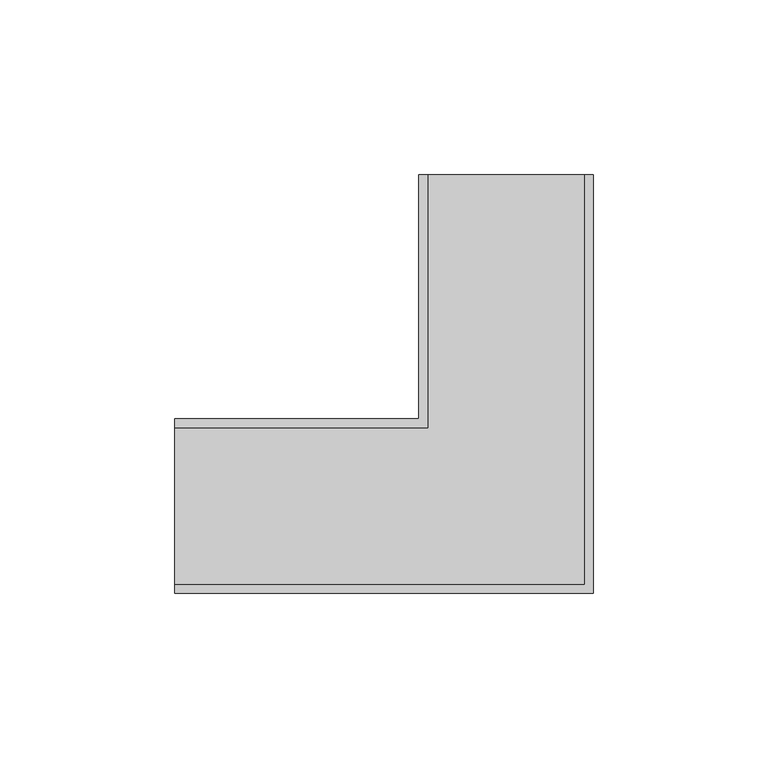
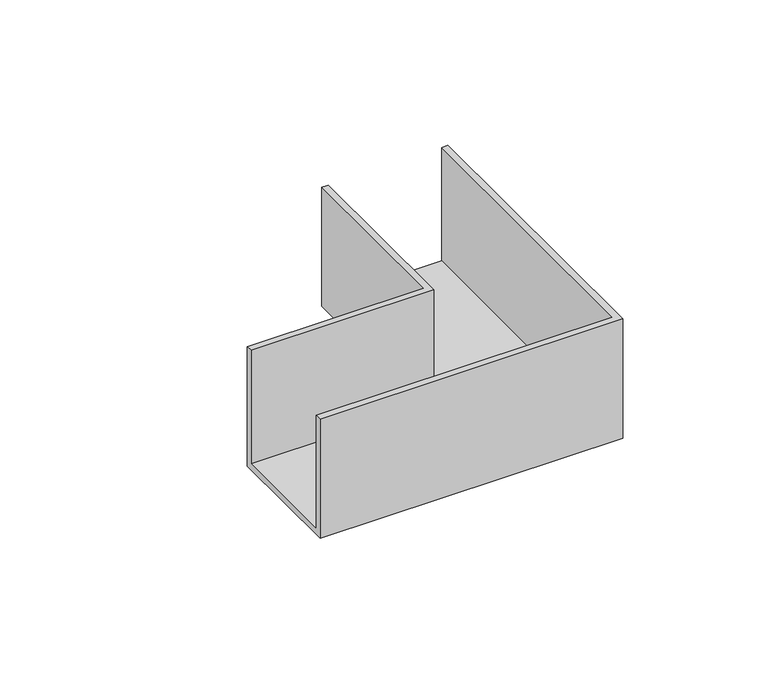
"""IFC4 building model written with IfcOpenShell, lengths in millimetres: cable carrier fitting geometry, CPER 50x50_Horizontal_Bend-Basortray : Basortray CPER50-GC."""

import ifcopenshell
import ifcopenshell.guid

model = None  # the IFC model being written
_history = None  # IfcOwnerHistory: only IFC2X3 demands one
_inside = {}  # id of a spatial element -> (the spatial element, [elements in it])
_under = {}  # id of a project, library or spatial element -> (it, [spatial elements below it])
_declared = {}  # id of a project -> (the project, [libraries it declares])
_typed = {}  # id of a type object -> (the type object, [elements of that type])
_made_of = {}  # id of a material, layer set ... -> (it, [elements and type objects made of it])


def new_model(schema):
    """Start an empty IFC model of exactly this schema.

    Asked for "IFC4X3", IfcOpenShell would pick the latest addendum, in which some entities
    have other attributes; the version numbers below select the first issue.
    IFC2X3 requires an IfcOwnerHistory on every rooted entity: one is made here for all.
    """
    global model, _history
    if schema == "IFC4X3":
        model = ifcopenshell.file(schema_version=(4, 3, 0, 0))
    else:
        model = ifcopenshell.file(schema=schema)
    _inside.clear()
    _under.clear()
    _declared.clear()
    _typed.clear()
    _made_of.clear()
    _history = None
    if model.schema == "IFC2X3":
        org = make("IfcOrganization", Name="unknown")
        user = make(
            "IfcPersonAndOrganization",
            ThePerson=make("IfcPerson", FamilyName="unknown"),
            TheOrganization=org,
        )
        app = make(
            "IfcApplication",
            ApplicationDeveloper=org,
            Version="unknown",
            ApplicationFullName="unknown",
            ApplicationIdentifier="unknown",
        )
        _history = make(
            "IfcOwnerHistory",
            OwningUser=user,
            OwningApplication=app,
            ChangeAction="ADDED",
            CreationDate=0,
        )
    return model


def make(cls, **values):
    """One entity of the class cls with the attributes given. An attribute that is None is left unset."""
    return model.create_entity(
        cls, **{name: value for name, value in values.items() if value is not None}
    )


def rooted(cls, **values):
    """An entity with a GlobalId (a new one), such as an element, a storey or a relation."""
    return make(cls, GlobalId=ifcopenshell.guid.new(), OwnerHistory=_history, **values)


def si_unit(unit_type, name, prefix=None):
    """IfcSIUnit, for example si_unit("LENGTHUNIT", "METRE", prefix="MILLI")."""
    return make("IfcSIUnit", UnitType=unit_type, Prefix=prefix, Name=name)


def assignment(units):
    """IfcUnitAssignment: the units of a project."""
    return None if units is None else make("IfcUnitAssignment", Units=units)


def point(xyz):
    """IfcCartesianPoint."""
    return None if xyz is None else make("IfcCartesianPoint", Coordinates=xyz)


def direction(xyz):
    """IfcDirection."""
    return None if xyz is None else make("IfcDirection", DirectionRatios=xyz)


def frame(location, z_axis=None, x_axis=None):
    """IfcAxis2Placement3D, a coordinate frame: its origin and axes. An axis left out is left unset."""
    return make(
        "IfcAxis2Placement3D",
        Location=point(location),
        Axis=direction(z_axis),
        RefDirection=direction(x_axis),
    )


def origin():
    """The frame at (0, 0, 0) with its axes left unset."""
    return frame((0.0, 0.0, 0.0))


def place(relative_to, where):
    """IfcLocalPlacement: puts the frame where relative to a parent placement (None: the world)."""
    return make(
        "IfcLocalPlacement", PlacementRelTo=relative_to, RelativePlacement=where
    )


def context(
    kind, dimensions, precision=None, world=None, true_north=None, identifier=None
):
    """IfcGeometricRepresentationContext, for example the 3D "Model" context."""
    return make(
        "IfcGeometricRepresentationContext",
        ContextIdentifier=identifier,
        ContextType=kind,
        CoordinateSpaceDimension=dimensions,
        Precision=precision,
        WorldCoordinateSystem=world,
        TrueNorth=true_north,
    )


def project(units=None, contexts=None):
    """IfcProject with its units and contexts."""
    return rooted(
        "IfcProject",
        Name="project",
        RepresentationContexts=contexts,
        UnitsInContext=assignment(units),
    )


def spatial(cls, under=None, at=None, **own):
    """A site, building, storey or space (cls), placed at a placement, below another one or the project."""
    s = rooted(cls, ObjectPlacement=at, **own)
    if under is not None:
        _under.setdefault(under.id(), (under, []))[1].append(s)
    return s


def faces_of(points, faces, orient=None, outer=None):
    """IfcFace entities. A face is a list of loops; a loop is a list of indices into points, from 0.

    orient and outer hold one flag for each loop. By default every Orientation is true, the
    first loop of a face is its IfcFaceOuterBound and the others are IfcFaceBound.
    """
    made = []
    for i, loops in enumerate(faces):
        bounds = []
        for j, loop in enumerate(loops):
            is_outer = j == 0 if outer is None else outer[i][j]
            bounds.append(
                make(
                    "IfcFaceOuterBound" if is_outer else "IfcFaceBound",
                    Bound=make("IfcPolyLoop", Polygon=[points[k] for k in loop]),
                    Orientation=True if orient is None else orient[i][j],
                )
            )
        made.append(make("IfcFace", Bounds=bounds))
    return made


def faceted_brep(points, faces, orient=None, outer=None, voids=None):
    """IfcFacetedBrep: a solid bounded by flat faces; with voids (closed shells), ...WithVoids."""
    shared = [point(p) for p in points]
    hull = make("IfcClosedShell", CfsFaces=faces_of(shared, faces, orient, outer))
    if voids is None:
        return make("IfcFacetedBrep", Outer=hull)
    return make(
        "IfcFacetedBrepWithVoids",
        Outer=hull,
        Voids=[
            make(cls, CfsFaces=faces_of(shared, fs, o, b)) for cls, fs, o, b in voids
        ],
    )


def shape(context_of_items, identifier, shape_type, items):
    """IfcShapeRepresentation: the items that make up one representation, for example the "Body"."""
    return make(
        "IfcShapeRepresentation",
        ContextOfItems=context_of_items,
        RepresentationIdentifier=identifier,
        RepresentationType=shape_type,
        Items=items,
    )


def source(mapping_origin, context_of_items, identifier, shape_type, items):
    """IfcRepresentationMap: a shape defined once, which mapped items show again and again."""
    return make(
        "IfcRepresentationMap",
        MappingOrigin=mapping_origin,
        MappedRepresentation=shape(context_of_items, identifier, shape_type, items),
    )


def transform(
    local_origin,
    x_axis=None,
    y_axis=None,
    z_axis=None,
    scale=None,
    scale2=None,
    scale3=None,
    uniform=True,
):
    """IfcCartesianTransformationOperator3D, or its non-uniform kind. x_axis, y_axis, z_axis: its Axis1, 2, 3."""
    if uniform:
        return make(
            "IfcCartesianTransformationOperator3D",
            Axis1=direction(x_axis),
            Axis2=direction(y_axis),
            LocalOrigin=point(local_origin),
            Scale=scale,
            Axis3=direction(z_axis),
        )
    return make(
        "IfcCartesianTransformationOperator3DnonUniform",
        Axis1=direction(x_axis),
        Axis2=direction(y_axis),
        LocalOrigin=point(local_origin),
        Scale=scale,
        Axis3=direction(z_axis),
        Scale2=scale2,
        Scale3=scale3,
    )


def mapped(mapping_source, mapping_target):
    """IfcMappedItem: shows the shape of a source again, moved by a transform."""
    return make(
        "IfcMappedItem", MappingSource=mapping_source, MappingTarget=mapping_target
    )


def made_of(thing, what):
    """Note that an element or type object is made of a material, layer set ...; save() writes the relation."""
    if what is not None:
        _made_of.setdefault(what.id(), (what, []))[1].append(thing)
    return thing


def element(
    cls,
    number,
    at=None,
    inside=None,
    cuts=None,
    type_object=None,
    material=None,
    context=None,
    identifier="Body",
    shape_type=None,
    held_by="IfcProductDefinitionShape",
    body=None,
    shapes=None,
    **own,
):
    """One element of the class cls, such as IfcWall. Its Tag is "e" and its number.

    at: its placement. inside: the storey or other place that contains it. cuts: it is an
    opening in that element (IfcRelVoidsElement). A single representation is given by context,
    identifier, shape_type and body (its items); several are given by shapes. held_by: the class
    of the entity that holds the representations. save() writes the other relations.
    """
    e = rooted(cls, Tag="e%d" % number, ObjectPlacement=at, **own)
    if body is not None:
        shapes = [shape(context, identifier, shape_type, body)]
    if shapes is not None:
        e.Representation = make(held_by, Representations=shapes)
    if inside is not None:
        _inside.setdefault(inside.id(), (inside, []))[1].append(e)
    if cuts is not None:
        rooted(
            "IfcRelVoidsElement", RelatingBuildingElement=cuts, RelatedOpeningElement=e
        )
    if type_object is not None:
        _typed.setdefault(type_object.id(), (type_object, []))[1].append(e)
    return made_of(e, material)


def aggregate(whole, parts):
    """IfcRelAggregates: a whole, such as a stair, and the parts it consists of."""
    return rooted("IfcRelAggregates", RelatingObject=whole, RelatedObjects=parts)


def save(model, path):
    """Write the relations noted so far, then the file.

    IfcRelAggregates (storeys below a building ...), IfcRelContainedInSpatialStructure (elements
    in a storey), IfcRelDefinesByType, IfcRelAssociatesMaterial and IfcRelDeclares: one each for
    every whole, place, type object, material and project.
    """
    for whole, parts in _under.values():
        aggregate(whole, parts)
    for where, things in _inside.values():
        rooted(
            "IfcRelContainedInSpatialStructure",
            RelatedElements=things,
            RelatingStructure=where,
        )
    for kind, things in _typed.values():
        rooted("IfcRelDefinesByType", RelatedObjects=things, RelatingType=kind)
    for what, things in _made_of.values():
        rooted("IfcRelAssociatesMaterial", RelatedObjects=things, RelatingMaterial=what)
    for by, libraries in _declared.values():
        rooted("IfcRelDeclares", RelatingContext=by, RelatedDefinitions=libraries)
    model.write(path)


def cable_carrier_fitting_6ee26a38(model_context):
    return source(origin(), model_context, "Body", "Brep", [
        faceted_brep([(-95.0, 25.0, -25.0), (-95.0, -25.0, -25.0), (-95.0, -25.0, 25.0), (-95.0, -22.46, 25.0), (-95.0, -22.46, -22.46), (-95.0, 22.46, -22.46), (-95.0, 22.46, 25.0), (-95.0, 25.0, 25.0), (-25.0, 25.0, -25.0), (-25.0, 95.0, -25.0), (25.0, 95.0, -25.0), (25.0, -25.0, -25.0), (25.0, -25.0, 25.0), (25.0, 95.0, 25.0), (22.46, 95.0, 25.0), (22.46, -22.46, 25.0), (22.46, -22.46, -22.46), (22.46, 95.0, -22.46), (-22.46, 95.0, -22.46), (-22.46, 22.46, -22.46), (-22.46, 22.46, 25.0), (-22.46, 95.0, 25.0), (-25.0, 95.0, 25.0), (-25.0, 25.0, 25.0)], [[[0, 1, 2, 3, 4, 5, 6, 7]], [[1, 0, 8, 9, 10, 11]], [[2, 1, 11, 12]], [[3, 2, 12, 13, 14, 15]], [[4, 3, 15, 16]], [[5, 4, 16, 17, 18, 19]], [[6, 5, 19, 20]], [[7, 6, 20, 21, 22, 23]], [[0, 7, 23, 8]], [[9, 22, 21, 18, 17, 14, 13, 10]], [[12, 11, 10, 13]], [[16, 15, 14, 17]], [[20, 19, 18, 21]], [[8, 23, 22, 9]]]),
    ])


if __name__ == "__main__":
    model = new_model("IFC4")
    model_context = context("Model", 3, world=origin())
    ifc_project = project(units=[si_unit("LENGTHUNIT", "METRE", prefix="MILLI")], contexts=[model_context])
    site = spatial("IfcSite", under=ifc_project)
    building = spatial("IfcBuilding", under=site)
    placement = place(None, origin())
    cable_carrier_fitting_shape = cable_carrier_fitting_6ee26a38(model_context)
    element("IfcCableCarrierFitting", 1, ObjectType="CPER 50x50_Horizontal_Bend-Basortray : Basortray CPER50-GC", at=placement, inside=building, context=model_context, shape_type="MappedRepresentation", body=[
        mapped(cable_carrier_fitting_shape, transform((0.0, 0.0, 0.0), x_axis=(1.0, 0.0, 0.0), y_axis=(0.0, 1.0, 0.0), z_axis=(0.0, 0.0, 1.0))),
    ])
    save(model, "model.ifc")
